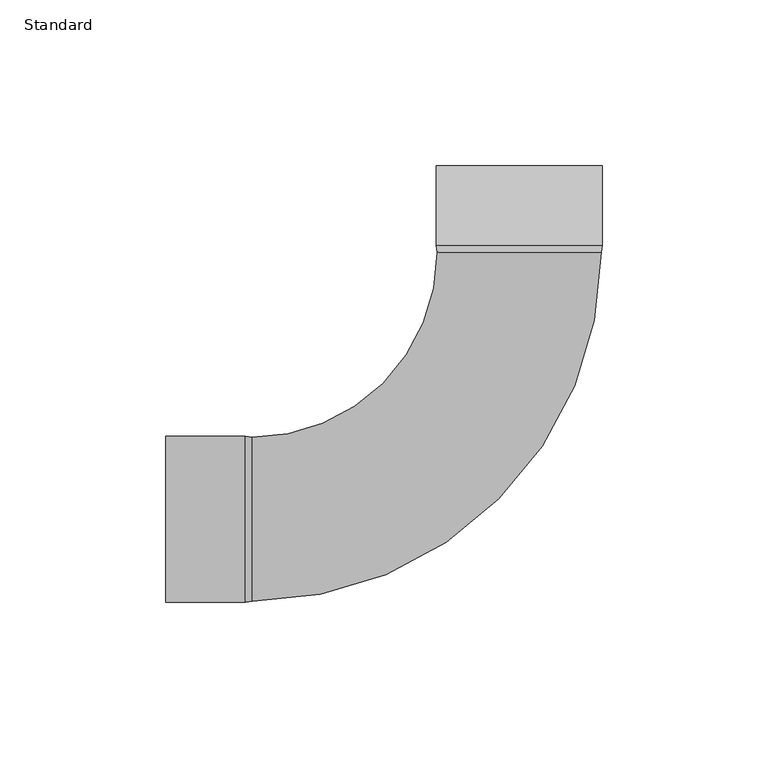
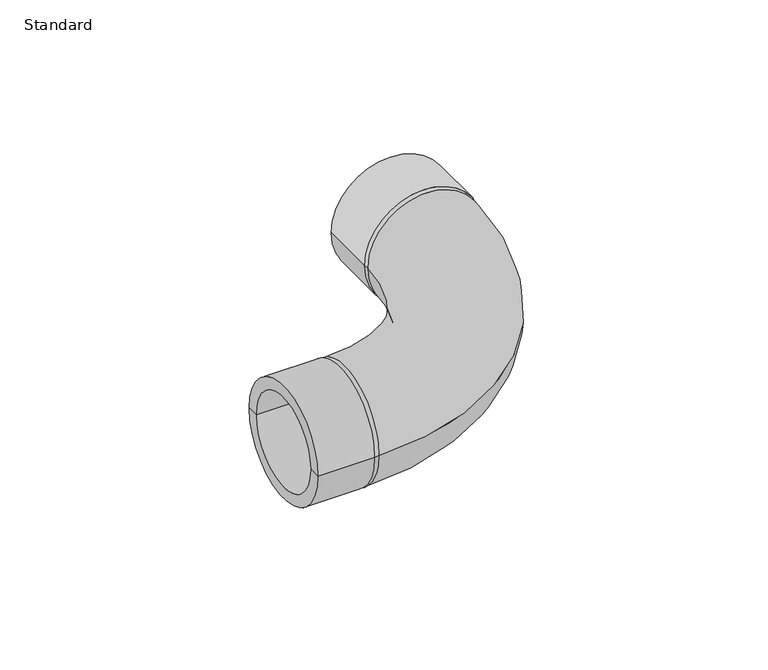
"""IFC4 building model written with IfcOpenShell, lengths in millimetres: pipe fitting geometry, Durapipe_PipeFitting_PVC_SR_Bend90deg : Standard."""

from ifc_helpers import new_model, si_unit, point, frame, origin, place, context, project, spatial, polyline, circle_curve, ellipse_curve, trimmed, source, transform, mapped, element, save
from ifc_brep_helpers import plane_surface, cylinder_surface, revolved_surface, advanced_brep


def standard_f8321bba(model_context):
    return source(origin(), model_context, "Body", "AdvancedBrep", [
        advanced_brep(
        [(25.0, 82.5, 0.0), (-25.0, 82.5, 0.0), (-25.0, 106.5, 0.0), (25.0, 106.5, 0.0), (24.7, 80.5, 0.0), (19.9827198, 80.5, -14.5182957), (7.6327198, 80.5, -23.491096), (-7.6327198, 80.5, -23.491096), (-19.9827198, 80.5, -14.5182957), (-24.7, 80.5, 0.0), (-19.9827198, 80.5, 14.5182957), (-7.6327198, 80.5, 23.491096), (7.6327198, 80.5, 23.491096), (19.9827198, 80.5, 14.5182957), (-20.0, 106.5, 0.0), (20.0, 106.5, 0.0), (-80.5, 24.7, 0.0), (-80.5, -24.7, 0.0), (-106.5, -20.0, 0.0), (-106.5, 20.0, 0.0), (-106.5, 25.0, 0.0), (-106.5, -25.0, 0.0), (-82.5, -25.0, 0.0), (-82.5, 25.0, 0.0), (-82.5, -20.0, 0.0), (-82.5, 20.0, 0.0), (-82.5, 0.0, 0.0), (20.0, 82.5, 0.0), (-20.0, 82.5, 0.0), (0.0, 82.5, 0.0)],
        [
            (0, 1, circle_curve(frame((0.0, 82.5, 0.0), z_axis=(0.0, 1.0, 0.0), x_axis=(-1.0, 0.0, 0.0)), 25.0)),
            (1, 2),
            (2, 3, circle_curve(frame((0.0, 106.5, 0.0), z_axis=(0.0, -1.0, 0.0), x_axis=(-1.0, 0.0, 0.0)), 25.0)),
            (3, 0),
            (1, 0, circle_curve(frame((0.0, 82.5, 0.0), z_axis=(0.0, 1.0, 0.0), x_axis=(-1.0, 0.0, 0.0)), 25.0)),
            (3, 2, circle_curve(frame((0.0, 106.5, 0.0), z_axis=(0.0, -1.0, 0.0), x_axis=(-1.0, 0.0, 0.0)), 25.0)),
            (0, 4),
            (4, 5, circle_curve(frame((0.0, 80.5, 0.0), z_axis=(0.0, 1.0, 0.0), x_axis=(-1.0, 0.0, 0.0)), 24.7)),
            (5, 6, circle_curve(frame((0.0, 80.5, 0.0), z_axis=(0.0, 1.0, 0.0), x_axis=(-1.0, 0.0, 0.0)), 24.7)),
            (6, 7, circle_curve(frame((0.0, 80.5, 0.0), z_axis=(0.0, 1.0, 0.0), x_axis=(-1.0, 0.0, 0.0)), 24.7)),
            (7, 8, circle_curve(frame((0.0, 80.5, 0.0), z_axis=(0.0, 1.0, 0.0), x_axis=(-1.0, 0.0, 0.0)), 24.7)),
            (8, 9, circle_curve(frame((0.0, 80.5, 0.0), z_axis=(0.0, 1.0, 0.0), x_axis=(-1.0, 0.0, 0.0)), 24.7)),
            (9, 1),
            (9, 10, circle_curve(frame((0.0, 80.5, 0.0), z_axis=(0.0, 1.0, 0.0), x_axis=(-1.0, 0.0, 0.0)), 24.7)),
            (10, 11, circle_curve(frame((0.0, 80.5, 0.0), z_axis=(0.0, 1.0, 0.0), x_axis=(-1.0, 0.0, 0.0)), 24.7)),
            (11, 12, circle_curve(frame((0.0, 80.5, 0.0), z_axis=(0.0, 1.0, 0.0), x_axis=(-1.0, 0.0, 0.0)), 24.7)),
            (12, 13, circle_curve(frame((0.0, 80.5, 0.0), z_axis=(0.0, 1.0, 0.0), x_axis=(-1.0, 0.0, 0.0)), 24.7)),
            (13, 4, circle_curve(frame((0.0, 80.5, 0.0), z_axis=(0.0, 1.0, 0.0), x_axis=(-1.0, 0.0, 0.0)), 24.7)),
            (2, 14),
            (14, 15, circle_curve(frame((0.0, 106.5, 0.0), z_axis=(0.0, -1.0, 0.0), x_axis=(-1.0, 0.0, 0.0)), 20.0)),
            (15, 3),
            (15, 14, circle_curve(frame((0.0, 106.5, 0.0), z_axis=(0.0, -1.0, 0.0), x_axis=(-1.0, 0.0, 0.0)), 20.0)),
            (9, 16, circle_curve(frame((-80.5, 80.5, 0.0), z_axis=(0.0, 0.0, -1.0), x_axis=(0.0, -1.0, 0.0)), 55.8)),
            (16, 17, circle_curve(frame((-80.5, 0.0, 0.0), z_axis=(1.0, 0.0, 0.0), x_axis=(0.0, 1.0, 0.0)), 24.7)),
            (17, 4, circle_curve(frame((-80.5, 80.5, 0.0), z_axis=(0.0, 0.0, 1.0), x_axis=(0.0, -1.0, 0.0)), 105.2)),
            (17, 16, circle_curve(frame((-80.5, 0.0, 0.0), z_axis=(1.0, 0.0, 0.0), x_axis=(0.0, 1.0, 0.0)), 24.7)),
            (18, 19, circle_curve(frame((-106.5, 0.0, 0.0), z_axis=(1.0, 0.0, 0.0), x_axis=(0.0, 1.0, 0.0)), 20.0)),
            (19, 20),
            (20, 21, circle_curve(frame((-106.5, 0.0, 0.0), z_axis=(-1.0, 0.0, 0.0), x_axis=(0.0, 1.0, 0.0)), 25.0)),
            (21, 18),
            (19, 18, circle_curve(frame((-106.5, 0.0, 0.0), z_axis=(1.0, 0.0, 0.0), x_axis=(0.0, 1.0, 0.0)), 20.0)),
            (21, 20, circle_curve(frame((-106.5, 0.0, 0.0), z_axis=(-1.0, 0.0, 0.0), x_axis=(0.0, 1.0, 0.0)), 25.0)),
            (22, 23, circle_curve(frame((-82.5, 0.0, 0.0), z_axis=(1.0, 0.0, 0.0), x_axis=(0.0, 1.0, 0.0)), 25.0)),
            (23, 16),
            (17, 22),
            (23, 22, circle_curve(frame((-82.5, 0.0, 0.0), z_axis=(1.0, 0.0, 0.0), x_axis=(0.0, 1.0, 0.0)), 25.0)),
            (20, 23),
            (22, 21),
            (18, 24),
            (24, 25, circle_curve(frame((-82.5, 0.0, 0.0), z_axis=(1.0, 0.0, 0.0), x_axis=(0.0, 1.0, 0.0)), 20.0)),
            (25, 19),
            (25, 24, circle_curve(frame((-82.5, 0.0, 0.0), z_axis=(1.0, 0.0, 0.0), x_axis=(0.0, 1.0, 0.0)), 20.0)),
            (24, 26),
            (26, 25),
            (27, 28, circle_curve(frame((0.0, 82.5, 0.0), z_axis=(0.0, 1.0, 0.0), x_axis=(-1.0, 0.0, 0.0)), 20.0)),
            (28, 29),
            (29, 27),
            (28, 27, circle_curve(frame((0.0, 82.5, 0.0), z_axis=(0.0, 1.0, 0.0), x_axis=(-1.0, 0.0, 0.0)), 20.0)),
            (14, 28),
            (27, 15),
        ],
        [
            cylinder_surface(frame((0.0, 2049.5, 0.0), z_axis=(0.0, -1.0, 0.0), x_axis=(-1.0, 0.0, 0.0)), 25.0),
            revolved_surface(polyline([(-25.0, 82.5, 0.0), (-24.7, 80.5, 0.0)]), (0.0, 2049.5, 0.0), (0.0, -1.0, 0.0)),
            plane_surface(frame((0.0, 106.5, 0.0), z_axis=(0.0, 1.0, 0.0), x_axis=(-1.0, 0.0, 0.0))),
            revolved_surface(trimmed(ellipse_curve(frame((-80.5, 0.0, 0.0), z_axis=(-1.0, 0.0, 0.0), x_axis=(0.0, 1.0, 0.0)), 24.7, 24.7), [point((-80.5, -24.7, 0.0))], [point((-80.5, 24.7, 0.0))], True, "CARTESIAN"), (-80.5, 80.5, 0.0), (0.0, 0.0, 1.0)),
            revolved_surface(trimmed(ellipse_curve(frame((-80.5, 0.0, 0.0), z_axis=(-1.0, 0.0, 0.0), x_axis=(0.0, 1.0, 0.0)), 24.7, 24.7), [point((-80.5, 24.7, 0.0))], [point((-80.5, -24.7, 0.0))], True, "CARTESIAN"), (-80.5, 80.5, 0.0), (0.0, 0.0, 1.0)),
            plane_surface(frame((-106.5, 0.0, 0.0), z_axis=(-1.0, 0.0, 0.0), x_axis=(0.0, 1.0, 0.0))),
            revolved_surface(polyline([(-80.5, 24.7, 0.0), (-82.5, 25.0, 0.0)]), (2012.0, 0.0, 0.0), (-1.0, 0.0, 0.0)),
            cylinder_surface(frame((2012.0, 0.0, 0.0), z_axis=(-1.0, 0.0, 0.0), x_axis=(0.0, 1.0, 0.0)), 25.0),
            revolved_surface(polyline([(-106.5, 20.0, 0.0), (-82.5, 20.0, 0.0)]), (2012.0, 0.0, 0.0), (-1.0, 0.0, 0.0)),
            plane_surface(frame((-82.5, 0.0, 0.0), z_axis=(-1.0, 0.0, 0.0), x_axis=(0.0, 1.0, 0.0))),
            plane_surface(frame((0.0, 82.5, 0.0), z_axis=(0.0, 1.0, 0.0), x_axis=(-1.0, 0.0, 0.0))),
            revolved_surface(polyline([(-20.0, 82.5, 0.0), (-20.0, 106.5, 0.0)]), (0.0, 2049.5, 0.0), (0.0, -1.0, 0.0)),
        ],
        [
            (0, [[1, 2, 3, 4]]),
            (0, [[-2, 5, -4, 6]]),
            (1, [[-1, 7, 8, 9, 10, 11, 12, 13]]),
            (1, [[-5, -13, 14, 15, 16, 17, 18, -7]]),
            (2, [[-3, 19, 20, 21]]),
            (2, [[-6, -21, 22, -19]]),
            (3, [[23, 24, 25, -18, -17, -16, -15, -14]]),
            (4, [[-23, -12, -11, -10, -9, -8, -25, 26]]),
            (5, [[27, 28, 29, 30]]),
            (5, [[-28, 31, -30, 32]]),
            (6, [[33, 34, -26, 35]]),
            (6, [[-34, 36, -35, -24]]),
            (7, [[-29, 37, -33, 38]]),
            (7, [[-32, -38, -36, -37]]),
            (8, [[-27, 39, 40, 41]]),
            (8, [[-31, -41, 42, -39]]),
            (9, [[-40, 43, 44]]),
            (9, [[-42, -44, -43]]),
            (10, [[45, 46, 47]]),
            (10, [[-46, 48, -47]]),
            (11, [[-20, 49, -45, 50]]),
            (11, [[-22, -50, -48, -49]]),
        ],
    ),
    ])


if __name__ == "__main__":
    model = new_model("IFC4")
    model_context = context("Model", 3, world=origin())
    ifc_project = project(units=[si_unit("LENGTHUNIT", "METRE", prefix="MILLI")], contexts=[model_context])
    site = spatial("IfcSite", under=ifc_project)
    building = spatial("IfcBuilding", under=site)
    placement = place(None, origin())
    standard_shape = standard_f8321bba(model_context)
    element("IfcPipeFitting", 1, ObjectType="Durapipe_PipeFitting_PVC_SR_Bend90deg : Standard", at=placement, inside=building, context=model_context, shape_type="MappedRepresentation", body=[
        mapped(standard_shape, transform((0.0, 0.0, 0.0), x_axis=(1.0, 0.0, 0.0), y_axis=(0.0, 1.0, 0.0), z_axis=(0.0, 0.0, 1.0))),
    ])
    save(model, "model.ifc")
